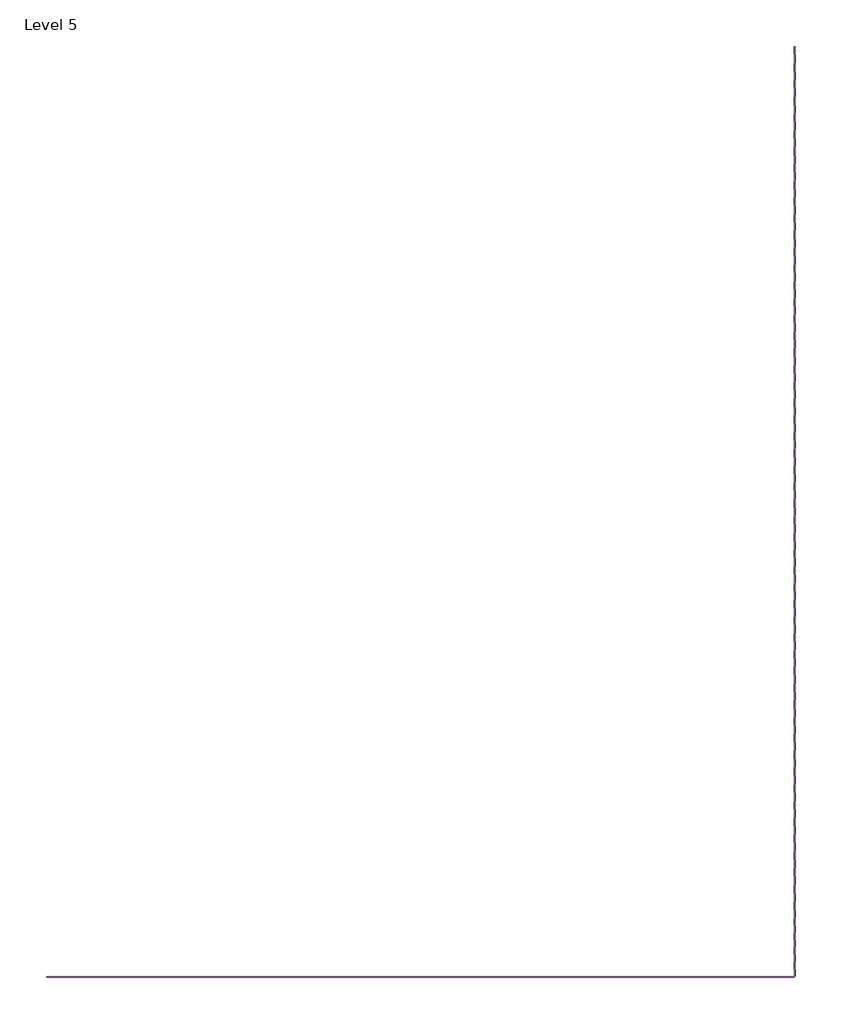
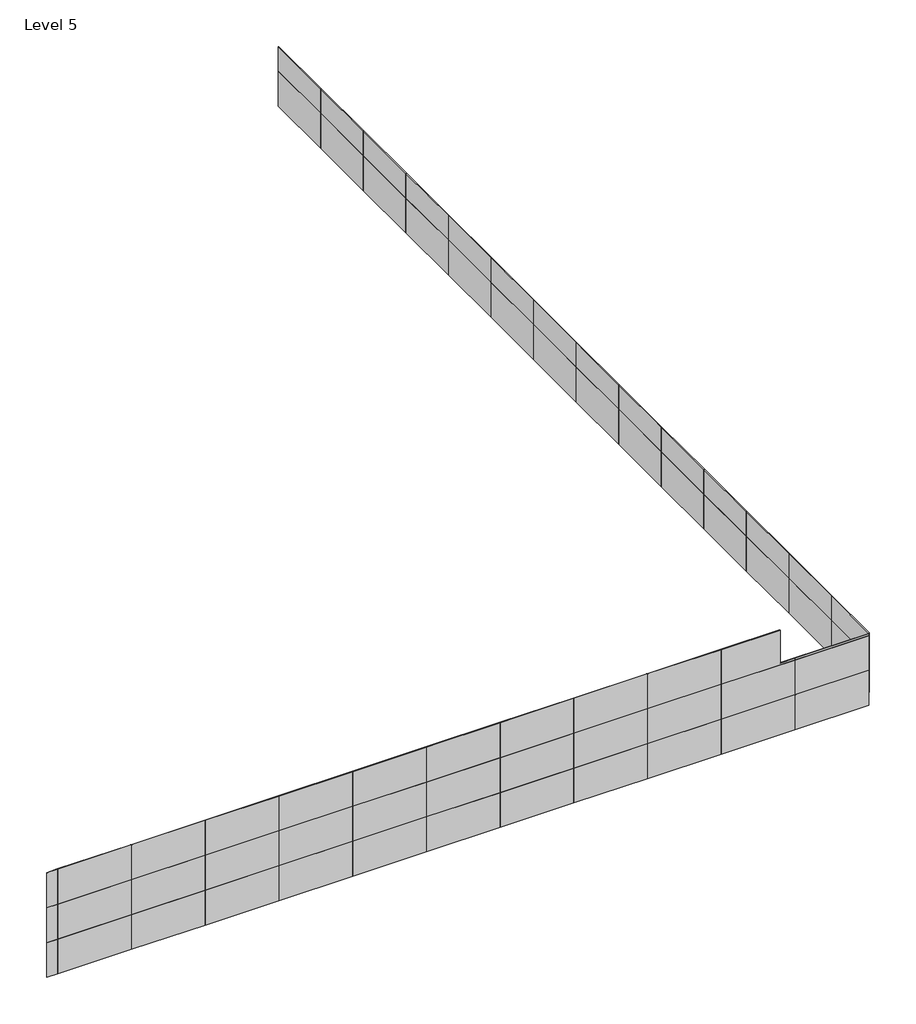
# One storey: 64 plates.
"""IFC4 building model written with IfcOpenShell, lengths in millimetres."""

from ifc_helpers import new_model, si_unit, origin, place, context, project, spatial, transform, mapped, element, save
from components import system_panel_glazed_0faff7bc, system_panel_glazed_3beef6a9, system_panel_glazed_40d7866d, system_panel_glazed_5a251e68, system_panel_glazed_27cb410f, system_panel_glazed_6aa71138, system_panel_glazed_ceae509a

model = new_model("IFC4")

# Units and contexts
model_context = context("Model", 3, world=origin())
ifc_project = project(units=[si_unit("LENGTHUNIT", "METRE", prefix="MILLI")], contexts=[model_context])

# Site, building, storey
site = spatial("IfcSite", under=ifc_project)
building = spatial("IfcBuilding", under=site)
storey = spatial("IfcBuildingStorey", under=building, Name="Level 5", Elevation=10515.6)

# Plates
placement = place(None, origin())
system_panel_glazed_shape = system_panel_glazed_0faff7bc(model_context)
element("IfcPlate", 1, ObjectType="System Panel : Glazed", at=placement, inside=storey, context=model_context, shape_type="MappedRepresentation", body=[
    mapped(system_panel_glazed_shape, transform((14868.0832196, -17542.9691989, 10756.4959124), x_axis=(-1.0, 0.0, 0.0), y_axis=(0.0, -1.0, 0.0), z_axis=(0.0, 0.0, 1.0))),
])
element("IfcPlate", 2, ObjectType="System Panel : Glazed", at=placement, inside=storey, context=model_context, shape_type="MappedRepresentation", body=[
    mapped(system_panel_glazed_shape, transform((11820.0832196, -17542.9691989, 10756.4959124), x_axis=(-1.0, 0.0, 0.0), y_axis=(0.0, -1.0, 0.0), z_axis=(0.0, 0.0, 1.0))),
])
element("IfcPlate", 3, ObjectType="System Panel : Glazed", at=placement, inside=storey, context=model_context, shape_type="MappedRepresentation", body=[
    mapped(system_panel_glazed_shape, transform((8772.0832196, -17542.9691989, 10756.4959124), x_axis=(-1.0, 0.0, 0.0), y_axis=(0.0, -1.0, 0.0), z_axis=(0.0, 0.0, 1.0))),
])
element("IfcPlate", 4, ObjectType="System Panel : Glazed", at=placement, inside=storey, context=model_context, shape_type="MappedRepresentation", body=[
    mapped(system_panel_glazed_shape, transform((5724.0832196, -17542.9691989, 10756.4959124), x_axis=(-1.0, 0.0, 0.0), y_axis=(0.0, -1.0, 0.0), z_axis=(0.0, 0.0, 1.0))),
])
element("IfcPlate", 5, ObjectType="System Panel : Glazed", at=placement, inside=storey, context=model_context, shape_type="MappedRepresentation", body=[
    mapped(system_panel_glazed_shape, transform((2676.0832196, -17542.9691989, 10756.4959124), x_axis=(-1.0, 0.0, 0.0), y_axis=(0.0, -1.0, 0.0), z_axis=(0.0, 0.0, 1.0))),
])
element("IfcPlate", 6, ObjectType="System Panel : Glazed", at=placement, inside=storey, context=model_context, shape_type="MappedRepresentation", body=[
    mapped(system_panel_glazed_shape, transform((-371.9167804, -17542.9691989, 10756.4959124), x_axis=(-1.0, 0.0, 0.0), y_axis=(0.0, -1.0, 0.0), z_axis=(0.0, 0.0, 1.0))),
])
element("IfcPlate", 7, ObjectType="System Panel : Glazed", at=placement, inside=storey, context=model_context, shape_type="MappedRepresentation", body=[
    mapped(system_panel_glazed_shape, transform((-3419.9167804, -17542.9691989, 10756.4959124), x_axis=(-1.0, 0.0, 0.0), y_axis=(0.0, -1.0, 0.0), z_axis=(0.0, 0.0, 1.0))),
])
element("IfcPlate", 8, ObjectType="System Panel : Glazed", at=placement, inside=storey, context=model_context, shape_type="MappedRepresentation", body=[
    mapped(system_panel_glazed_shape, transform((-6467.9167804, -17542.9691989, 10756.4959124), x_axis=(-1.0, 0.0, 0.0), y_axis=(0.0, -1.0, 0.0), z_axis=(0.0, 0.0, 1.0))),
])
element("IfcPlate", 9, ObjectType="System Panel : Glazed", at=placement, inside=storey, context=model_context, shape_type="MappedRepresentation", body=[
    mapped(system_panel_glazed_shape, transform((-9515.9167804, -17542.9691989, 10756.4959124), x_axis=(-1.0, 0.0, 0.0), y_axis=(0.0, -1.0, 0.0), z_axis=(0.0, 0.0, 1.0))),
])
element("IfcPlate", 10, ObjectType="System Panel : Glazed", at=placement, inside=storey, context=model_context, shape_type="MappedRepresentation", body=[
    mapped(system_panel_glazed_shape, transform((-12563.9167804, -17542.9691989, 10756.4959124), x_axis=(-1.0, 0.0, 0.0), y_axis=(0.0, -1.0, 0.0), z_axis=(0.0, 0.0, 1.0))),
])
element("IfcPlate", 11, ObjectType="System Panel : Glazed", at=placement, inside=storey, context=model_context, shape_type="MappedRepresentation", body=[
    mapped(system_panel_glazed_shape, transform((-15611.9167804, -17542.9691989, 10756.4959124), x_axis=(-1.0, 0.0, 0.0), y_axis=(0.0, -1.0, 0.0), z_axis=(0.0, 0.0, 1.0))),
])
element("IfcPlate", 12, ObjectType="System Panel : Glazed", at=placement, inside=storey, context=model_context, shape_type="MappedRepresentation", body=[
    mapped(system_panel_glazed_shape, transform((14868.0832196, -17542.9691989, 12280.4959124), x_axis=(-1.0, 0.0, 0.0), y_axis=(0.0, -1.0, 0.0), z_axis=(0.0, 0.0, 1.0))),
])
element("IfcPlate", 13, ObjectType="System Panel : Glazed", at=placement, inside=storey, context=model_context, shape_type="MappedRepresentation", body=[
    mapped(system_panel_glazed_shape, transform((11820.0832196, -17542.9691989, 12280.4959124), x_axis=(-1.0, 0.0, 0.0), y_axis=(0.0, -1.0, 0.0), z_axis=(0.0, 0.0, 1.0))),
])
element("IfcPlate", 14, ObjectType="System Panel : Glazed", at=placement, inside=storey, context=model_context, shape_type="MappedRepresentation", body=[
    mapped(system_panel_glazed_shape, transform((8772.0832196, -17542.9691989, 12280.4959124), x_axis=(-1.0, 0.0, 0.0), y_axis=(0.0, -1.0, 0.0), z_axis=(0.0, 0.0, 1.0))),
])
element("IfcPlate", 15, ObjectType="System Panel : Glazed", at=placement, inside=storey, context=model_context, shape_type="MappedRepresentation", body=[
    mapped(system_panel_glazed_shape, transform((5724.0832196, -17542.9691989, 12280.4959124), x_axis=(-1.0, 0.0, 0.0), y_axis=(0.0, -1.0, 0.0), z_axis=(0.0, 0.0, 1.0))),
])
element("IfcPlate", 16, ObjectType="System Panel : Glazed", at=placement, inside=storey, context=model_context, shape_type="MappedRepresentation", body=[
    mapped(system_panel_glazed_shape, transform((2676.0832196, -17542.9691989, 12280.4959124), x_axis=(-1.0, 0.0, 0.0), y_axis=(0.0, -1.0, 0.0), z_axis=(0.0, 0.0, 1.0))),
])
element("IfcPlate", 17, ObjectType="System Panel : Glazed", at=placement, inside=storey, context=model_context, shape_type="MappedRepresentation", body=[
    mapped(system_panel_glazed_shape, transform((-371.9167804, -17542.9691989, 12280.4959124), x_axis=(-1.0, 0.0, 0.0), y_axis=(0.0, -1.0, 0.0), z_axis=(0.0, 0.0, 1.0))),
])
element("IfcPlate", 18, ObjectType="System Panel : Glazed", at=placement, inside=storey, context=model_context, shape_type="MappedRepresentation", body=[
    mapped(system_panel_glazed_shape, transform((-3419.9167804, -17542.9691989, 12280.4959124), x_axis=(-1.0, 0.0, 0.0), y_axis=(0.0, -1.0, 0.0), z_axis=(0.0, 0.0, 1.0))),
])
element("IfcPlate", 19, ObjectType="System Panel : Glazed", at=placement, inside=storey, context=model_context, shape_type="MappedRepresentation", body=[
    mapped(system_panel_glazed_shape, transform((-6467.9167804, -17542.9691989, 12280.4959124), x_axis=(-1.0, 0.0, 0.0), y_axis=(0.0, -1.0, 0.0), z_axis=(0.0, 0.0, 1.0))),
])
element("IfcPlate", 20, ObjectType="System Panel : Glazed", at=placement, inside=storey, context=model_context, shape_type="MappedRepresentation", body=[
    mapped(system_panel_glazed_shape, transform((-9515.9167804, -17542.9691989, 12280.4959124), x_axis=(-1.0, 0.0, 0.0), y_axis=(0.0, -1.0, 0.0), z_axis=(0.0, 0.0, 1.0))),
])
element("IfcPlate", 21, ObjectType="System Panel : Glazed", at=placement, inside=storey, context=model_context, shape_type="MappedRepresentation", body=[
    mapped(system_panel_glazed_shape, transform((-12563.9167804, -17542.9691989, 12280.4959124), x_axis=(-1.0, 0.0, 0.0), y_axis=(0.0, -1.0, 0.0), z_axis=(0.0, 0.0, 1.0))),
])
element("IfcPlate", 22, ObjectType="System Panel : Glazed", at=placement, inside=storey, context=model_context, shape_type="MappedRepresentation", body=[
    mapped(system_panel_glazed_shape, transform((-15611.9167804, -17542.9691989, 12280.4959124), x_axis=(-1.0, 0.0, 0.0), y_axis=(0.0, -1.0, 0.0), z_axis=(0.0, 0.0, 1.0))),
])
element("IfcPlate", 23, ObjectType="System Panel : Glazed", at=placement, inside=storey, context=model_context, shape_type="MappedRepresentation", body=[
    mapped(system_panel_glazed_shape, transform((8772.0832196, -17542.9691989, 13804.4959124), x_axis=(-1.0, 0.0, 0.0), y_axis=(0.0, -1.0, 0.0), z_axis=(0.0, 0.0, 1.0))),
])
element("IfcPlate", 24, ObjectType="System Panel : Glazed", at=placement, inside=storey, context=model_context, shape_type="MappedRepresentation", body=[
    mapped(system_panel_glazed_shape, transform((5724.0832196, -17542.9691989, 13804.4959124), x_axis=(-1.0, 0.0, 0.0), y_axis=(0.0, -1.0, 0.0), z_axis=(0.0, 0.0, 1.0))),
])
element("IfcPlate", 25, ObjectType="System Panel : Glazed", at=placement, inside=storey, context=model_context, shape_type="MappedRepresentation", body=[
    mapped(system_panel_glazed_shape, transform((2676.0832196, -17542.9691989, 13804.4959124), x_axis=(-1.0, 0.0, 0.0), y_axis=(0.0, -1.0, 0.0), z_axis=(0.0, 0.0, 1.0))),
])
element("IfcPlate", 26, ObjectType="System Panel : Glazed", at=placement, inside=storey, context=model_context, shape_type="MappedRepresentation", body=[
    mapped(system_panel_glazed_shape, transform((-371.9167804, -17542.9691989, 13804.4959124), x_axis=(-1.0, 0.0, 0.0), y_axis=(0.0, -1.0, 0.0), z_axis=(0.0, 0.0, 1.0))),
])
element("IfcPlate", 27, ObjectType="System Panel : Glazed", at=placement, inside=storey, context=model_context, shape_type="MappedRepresentation", body=[
    mapped(system_panel_glazed_shape, transform((-3419.9167804, -17542.9691989, 13804.4959124), x_axis=(-1.0, 0.0, 0.0), y_axis=(0.0, -1.0, 0.0), z_axis=(0.0, 0.0, 1.0))),
])
element("IfcPlate", 28, ObjectType="System Panel : Glazed", at=placement, inside=storey, context=model_context, shape_type="MappedRepresentation", body=[
    mapped(system_panel_glazed_shape, transform((-6467.9167804, -17542.9691989, 13804.4959124), x_axis=(-1.0, 0.0, 0.0), y_axis=(0.0, -1.0, 0.0), z_axis=(0.0, 0.0, 1.0))),
])
element("IfcPlate", 29, ObjectType="System Panel : Glazed", at=placement, inside=storey, context=model_context, shape_type="MappedRepresentation", body=[
    mapped(system_panel_glazed_shape, transform((-9515.9167804, -17542.9691989, 13804.4959124), x_axis=(-1.0, 0.0, 0.0), y_axis=(0.0, -1.0, 0.0), z_axis=(0.0, 0.0, 1.0))),
])
element("IfcPlate", 30, ObjectType="System Panel : Glazed", at=placement, inside=storey, context=model_context, shape_type="MappedRepresentation", body=[
    mapped(system_panel_glazed_shape, transform((-12563.9167804, -17542.9691989, 13804.4959124), x_axis=(-1.0, 0.0, 0.0), y_axis=(0.0, -1.0, 0.0), z_axis=(0.0, 0.0, 1.0))),
])
element("IfcPlate", 31, ObjectType="System Panel : Glazed", at=placement, inside=storey, context=model_context, shape_type="MappedRepresentation", body=[
    mapped(system_panel_glazed_shape, transform((-15611.9167804, -17542.9691989, 13804.4959124), x_axis=(-1.0, 0.0, 0.0), y_axis=(0.0, -1.0, 0.0), z_axis=(0.0, 0.0, 1.0))),
])
element("IfcPlate", 32, ObjectType="System Panel : Glazed", at=placement, inside=storey, context=model_context, shape_type="MappedRepresentation", body=[
    mapped(system_panel_glazed_shape, transform((16392.0832196, 23196.5063873, 11289.585767), x_axis=(0.0, -1.0, 0.0), y_axis=(1.0, 0.0, 0.0), z_axis=(0.0, 0.0, 1.0))),
])
element("IfcPlate", 33, ObjectType="System Panel : Glazed", at=placement, inside=storey, context=model_context, shape_type="MappedRepresentation", body=[
    mapped(system_panel_glazed_shape, transform((16392.0832196, 20148.5063873, 11289.585767), x_axis=(0.0, -1.0, 0.0), y_axis=(1.0, 0.0, 0.0), z_axis=(0.0, 0.0, 1.0))),
])
element("IfcPlate", 34, ObjectType="System Panel : Glazed", at=placement, inside=storey, context=model_context, shape_type="MappedRepresentation", body=[
    mapped(system_panel_glazed_shape, transform((16392.0832196, 17100.5063873, 11289.585767), x_axis=(0.0, -1.0, 0.0), y_axis=(1.0, 0.0, 0.0), z_axis=(0.0, 0.0, 1.0))),
])
element("IfcPlate", 35, ObjectType="System Panel : Glazed", at=placement, inside=storey, context=model_context, shape_type="MappedRepresentation", body=[
    mapped(system_panel_glazed_shape, transform((16392.0832196, 14052.5063873, 11289.585767), x_axis=(0.0, -1.0, 0.0), y_axis=(1.0, 0.0, 0.0), z_axis=(0.0, 0.0, 1.0))),
])
element("IfcPlate", 36, ObjectType="System Panel : Glazed", at=placement, inside=storey, context=model_context, shape_type="MappedRepresentation", body=[
    mapped(system_panel_glazed_shape, transform((16392.0832196, 11004.5063873, 11289.585767), x_axis=(0.0, -1.0, 0.0), y_axis=(1.0, 0.0, 0.0), z_axis=(0.0, 0.0, 1.0))),
])
element("IfcPlate", 37, ObjectType="System Panel : Glazed", at=placement, inside=storey, context=model_context, shape_type="MappedRepresentation", body=[
    mapped(system_panel_glazed_shape, transform((16392.0832196, 7956.5063873, 11289.585767), x_axis=(0.0, -1.0, 0.0), y_axis=(1.0, 0.0, 0.0), z_axis=(0.0, 0.0, 1.0))),
])
element("IfcPlate", 38, ObjectType="System Panel : Glazed", at=placement, inside=storey, context=model_context, shape_type="MappedRepresentation", body=[
    mapped(system_panel_glazed_shape, transform((16392.0832196, 4908.5063873, 11289.585767), x_axis=(0.0, -1.0, 0.0), y_axis=(1.0, 0.0, 0.0), z_axis=(0.0, 0.0, 1.0))),
])
element("IfcPlate", 39, ObjectType="System Panel : Glazed", at=placement, inside=storey, context=model_context, shape_type="MappedRepresentation", body=[
    mapped(system_panel_glazed_shape, transform((16392.0832196, 1860.5063873, 11289.585767), x_axis=(0.0, -1.0, 0.0), y_axis=(1.0, 0.0, 0.0), z_axis=(0.0, 0.0, 1.0))),
])
element("IfcPlate", 40, ObjectType="System Panel : Glazed", at=placement, inside=storey, context=model_context, shape_type="MappedRepresentation", body=[
    mapped(system_panel_glazed_shape, transform((16392.0832196, -1187.4936127, 11289.585767), x_axis=(0.0, -1.0, 0.0), y_axis=(1.0, 0.0, 0.0), z_axis=(0.0, 0.0, 1.0))),
])
element("IfcPlate", 41, ObjectType="System Panel : Glazed", at=placement, inside=storey, context=model_context, shape_type="MappedRepresentation", body=[
    mapped(system_panel_glazed_shape, transform((16392.0832196, -4235.4936127, 11289.585767), x_axis=(0.0, -1.0, 0.0), y_axis=(1.0, 0.0, 0.0), z_axis=(0.0, 0.0, 1.0))),
])
element("IfcPlate", 42, ObjectType="System Panel : Glazed", at=placement, inside=storey, context=model_context, shape_type="MappedRepresentation", body=[
    mapped(system_panel_glazed_shape, transform((16392.0832196, -7283.4936127, 11289.585767), x_axis=(0.0, -1.0, 0.0), y_axis=(1.0, 0.0, 0.0), z_axis=(0.0, 0.0, 1.0))),
])
element("IfcPlate", 43, ObjectType="System Panel : Glazed", at=placement, inside=storey, context=model_context, shape_type="MappedRepresentation", body=[
    mapped(system_panel_glazed_shape, transform((16392.0832196, -10331.4936127, 11289.585767), x_axis=(0.0, -1.0, 0.0), y_axis=(1.0, 0.0, 0.0), z_axis=(0.0, 0.0, 1.0))),
])
element("IfcPlate", 44, ObjectType="System Panel : Glazed", at=placement, inside=storey, context=model_context, shape_type="MappedRepresentation", body=[
    mapped(system_panel_glazed_shape, transform((16392.0832196, -13379.4936127, 11289.585767), x_axis=(0.0, -1.0, 0.0), y_axis=(1.0, 0.0, 0.0), z_axis=(0.0, 0.0, 1.0))),
])
system_panel_glazed_2_shape = system_panel_glazed_3beef6a9(model_context)
element("IfcPlate", 45, ObjectType="System Panel : Glazed", at=placement, inside=storey, context=model_context, shape_type="MappedRepresentation", body=[
    mapped(system_panel_glazed_2_shape, transform((-17358.5287318, -17542.9691989, 10756.4959124), x_axis=(-1.0, 0.0, 0.0), y_axis=(0.0, -1.0, 0.0), z_axis=(0.0, 0.0, 1.0))),
])
element("IfcPlate", 46, ObjectType="System Panel : Glazed", at=placement, inside=storey, context=model_context, shape_type="MappedRepresentation", body=[
    mapped(system_panel_glazed_2_shape, transform((-17358.5287318, -17542.9691989, 12280.4959124), x_axis=(-1.0, 0.0, 0.0), y_axis=(0.0, -1.0, 0.0), z_axis=(0.0, 0.0, 1.0))),
])
element("IfcPlate", 47, ObjectType="System Panel : Glazed", at=placement, inside=storey, context=model_context, shape_type="MappedRepresentation", body=[
    mapped(system_panel_glazed_2_shape, transform((-17358.5287318, -17542.9691989, 13804.4959124), x_axis=(-1.0, 0.0, 0.0), y_axis=(0.0, -1.0, 0.0), z_axis=(0.0, 0.0, 1.0))),
])
system_panel_glazed_3_shape = system_panel_glazed_40d7866d(model_context)
element("IfcPlate", 48, ObjectType="System Panel : Glazed", at=placement, inside=storey, context=model_context, shape_type="MappedRepresentation", body=[
    mapped(system_panel_glazed_3_shape, transform((14868.0832196, -17542.9691989, 13804.4959124), x_axis=(-1.0, 0.0, 0.0), y_axis=(0.0, -1.0, 0.0), z_axis=(0.0, 0.0, 1.0))),
])
system_panel_glazed_4_shape = system_panel_glazed_5a251e68(model_context)
element("IfcPlate", 49, ObjectType="System Panel : Glazed", at=placement, inside=storey, context=model_context, shape_type="MappedRepresentation", body=[
    mapped(system_panel_glazed_4_shape, transform((11820.0832196, -17542.9691989, 13804.4959124), x_axis=(-1.0, 0.0, 0.0), y_axis=(0.0, -1.0, 0.0), z_axis=(0.0, 0.0, 1.0))),
])
system_panel_glazed_5_shape = system_panel_glazed_27cb410f(model_context)
element("IfcPlate", 50, ObjectType="System Panel : Glazed", at=placement, inside=storey, context=model_context, shape_type="MappedRepresentation", body=[
    mapped(system_panel_glazed_5_shape, transform((16392.0832196, -16223.2314058, 11289.585767), x_axis=(0.0, -1.0, 0.0), y_axis=(1.0, 0.0, 0.0), z_axis=(0.0, 0.0, 1.0))),
])
system_panel_glazed_6_shape = system_panel_glazed_6aa71138(model_context)
element("IfcPlate", 51, ObjectType="System Panel : Glazed", at=placement, inside=storey, context=model_context, shape_type="MappedRepresentation", body=[
    mapped(system_panel_glazed_6_shape, transform((16392.0832196, 23196.5063873, 12813.585767), x_axis=(0.0, -1.0, 0.0), y_axis=(1.0, 0.0, 0.0), z_axis=(0.0, 0.0, 1.0))),
])
element("IfcPlate", 52, ObjectType="System Panel : Glazed", at=placement, inside=storey, context=model_context, shape_type="MappedRepresentation", body=[
    mapped(system_panel_glazed_6_shape, transform((16392.0832196, 20148.5063873, 12813.585767), x_axis=(0.0, -1.0, 0.0), y_axis=(1.0, 0.0, 0.0), z_axis=(0.0, 0.0, 1.0))),
])
element("IfcPlate", 53, ObjectType="System Panel : Glazed", at=placement, inside=storey, context=model_context, shape_type="MappedRepresentation", body=[
    mapped(system_panel_glazed_6_shape, transform((16392.0832196, 17100.5063873, 12813.585767), x_axis=(0.0, -1.0, 0.0), y_axis=(1.0, 0.0, 0.0), z_axis=(0.0, 0.0, 1.0))),
])
element("IfcPlate", 54, ObjectType="System Panel : Glazed", at=placement, inside=storey, context=model_context, shape_type="MappedRepresentation", body=[
    mapped(system_panel_glazed_6_shape, transform((16392.0832196, 14052.5063873, 12813.585767), x_axis=(0.0, -1.0, 0.0), y_axis=(1.0, 0.0, 0.0), z_axis=(0.0, 0.0, 1.0))),
])
element("IfcPlate", 55, ObjectType="System Panel : Glazed", at=placement, inside=storey, context=model_context, shape_type="MappedRepresentation", body=[
    mapped(system_panel_glazed_6_shape, transform((16392.0832196, 11004.5063873, 12813.585767), x_axis=(0.0, -1.0, 0.0), y_axis=(1.0, 0.0, 0.0), z_axis=(0.0, 0.0, 1.0))),
])
element("IfcPlate", 56, ObjectType="System Panel : Glazed", at=placement, inside=storey, context=model_context, shape_type="MappedRepresentation", body=[
    mapped(system_panel_glazed_6_shape, transform((16392.0832196, 7956.5063873, 12813.585767), x_axis=(0.0, -1.0, 0.0), y_axis=(1.0, 0.0, 0.0), z_axis=(0.0, 0.0, 1.0))),
])
element("IfcPlate", 57, ObjectType="System Panel : Glazed", at=placement, inside=storey, context=model_context, shape_type="MappedRepresentation", body=[
    mapped(system_panel_glazed_6_shape, transform((16392.0832196, 4908.5063873, 12813.585767), x_axis=(0.0, -1.0, 0.0), y_axis=(1.0, 0.0, 0.0), z_axis=(0.0, 0.0, 1.0))),
])
element("IfcPlate", 58, ObjectType="System Panel : Glazed", at=placement, inside=storey, context=model_context, shape_type="MappedRepresentation", body=[
    mapped(system_panel_glazed_6_shape, transform((16392.0832196, 1860.5063873, 12813.585767), x_axis=(0.0, -1.0, 0.0), y_axis=(1.0, 0.0, 0.0), z_axis=(0.0, 0.0, 1.0))),
])
element("IfcPlate", 59, ObjectType="System Panel : Glazed", at=placement, inside=storey, context=model_context, shape_type="MappedRepresentation", body=[
    mapped(system_panel_glazed_6_shape, transform((16392.0832196, -1187.4936127, 12813.585767), x_axis=(0.0, -1.0, 0.0), y_axis=(1.0, 0.0, 0.0), z_axis=(0.0, 0.0, 1.0))),
])
element("IfcPlate", 60, ObjectType="System Panel : Glazed", at=placement, inside=storey, context=model_context, shape_type="MappedRepresentation", body=[
    mapped(system_panel_glazed_6_shape, transform((16392.0832196, -4235.4936127, 12813.585767), x_axis=(0.0, -1.0, 0.0), y_axis=(1.0, 0.0, 0.0), z_axis=(0.0, 0.0, 1.0))),
])
element("IfcPlate", 61, ObjectType="System Panel : Glazed", at=placement, inside=storey, context=model_context, shape_type="MappedRepresentation", body=[
    mapped(system_panel_glazed_6_shape, transform((16392.0832196, -7283.4936127, 12813.585767), x_axis=(0.0, -1.0, 0.0), y_axis=(1.0, 0.0, 0.0), z_axis=(0.0, 0.0, 1.0))),
])
element("IfcPlate", 62, ObjectType="System Panel : Glazed", at=placement, inside=storey, context=model_context, shape_type="MappedRepresentation", body=[
    mapped(system_panel_glazed_6_shape, transform((16392.0832196, -10331.4936127, 12813.585767), x_axis=(0.0, -1.0, 0.0), y_axis=(1.0, 0.0, 0.0), z_axis=(0.0, 0.0, 1.0))),
])
element("IfcPlate", 63, ObjectType="System Panel : Glazed", at=placement, inside=storey, context=model_context, shape_type="MappedRepresentation", body=[
    mapped(system_panel_glazed_6_shape, transform((16392.0832196, -13379.4936127, 12813.585767), x_axis=(0.0, -1.0, 0.0), y_axis=(1.0, 0.0, 0.0), z_axis=(0.0, 0.0, 1.0))),
])
system_panel_glazed_7_shape = system_panel_glazed_ceae509a(model_context)
element("IfcPlate", 64, ObjectType="System Panel : Glazed", at=placement, inside=storey, context=model_context, shape_type="MappedRepresentation", body=[
    mapped(system_panel_glazed_7_shape, transform((16392.0832196, -16223.2314058, 12813.585767), x_axis=(0.0, -1.0, 0.0), y_axis=(1.0, 0.0, 0.0), z_axis=(0.0, 0.0, 1.0))),
])

save(model, "model.ifc")
